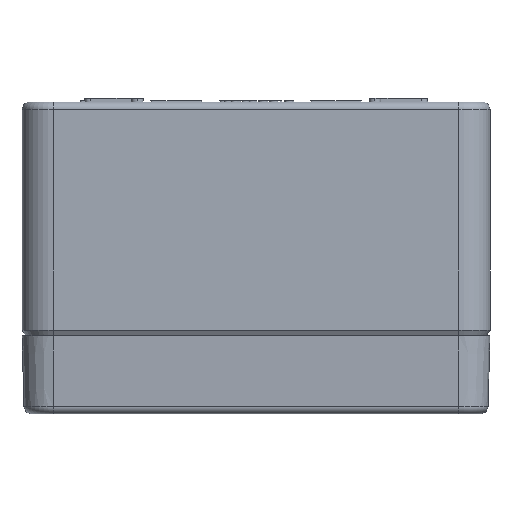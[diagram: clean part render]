
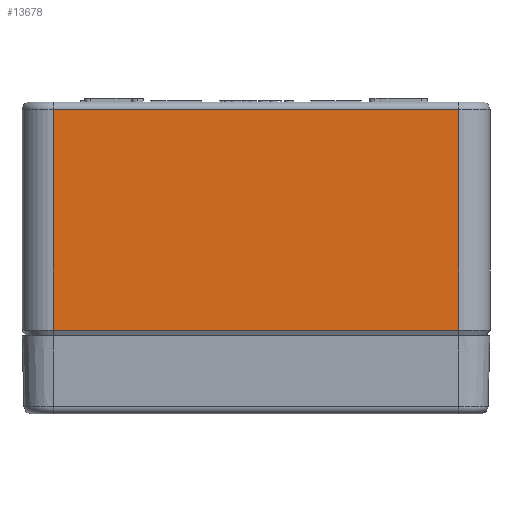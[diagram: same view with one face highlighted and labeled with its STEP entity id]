
A CAD part, left-side view. The second image highlights one B-rep face of the part: STEP entity #13678.
In plain terms, the highlighted planar face has unit normal (-1, 0, 0).
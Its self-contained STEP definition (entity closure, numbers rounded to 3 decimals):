
#1792 = ORIENTED_EDGE ( 'NONE', *, *, #25846, .T. ) ;
#2291 = DIRECTION ( 'NONE',  ( 0., 0., -1. ) ) ;
#2568 = AXIS2_PLACEMENT_3D ( 'NONE', #33051, #11240, #33190 ) ;
#2865 = VECTOR ( 'NONE', #20931, 1000. ) ;
#2973 = EDGE_CURVE ( 'NONE', #3325, #11841, #33135, .T. ) ;
#3325 = VERTEX_POINT ( 'NONE', #14627 ) ;
#3460 = CARTESIAN_POINT ( 'NONE',  ( -61., -52., 62. ) ) ;
#3640 = LINE ( 'NONE', #38833, #15965 ) ;
#3844 = LINE ( 'NONE', #8399, #2865 ) ;
#4392 = DIRECTION ( 'NONE',  ( 0., -1., 0. ) ) ;
#5472 = CARTESIAN_POINT ( 'NONE',  ( -61., 52., 62. ) ) ;
#5845 = EDGE_CURVE ( 'NONE', #21037, #23345, #36768, .T. ) ;
#6215 = EDGE_CURVE ( 'NONE', #21037, #3325, #3844, .T. ) ;
#8399 = CARTESIAN_POINT ( 'NONE',  ( -61., 52., 60. ) ) ;
#8628 = ORIENTED_EDGE ( 'NONE', *, *, #2973, .T. ) ;
#10144 = CARTESIAN_POINT ( 'NONE',  ( -61., -52., 3.5 ) ) ;
#11024 = ORIENTED_EDGE ( 'NONE', *, *, #6215, .T. ) ;
#11240 = DIRECTION ( 'NONE',  ( 1., 0., 0. ) ) ;
#11653 = PLANE ( 'NONE',  #2568 ) ;
#11841 = VERTEX_POINT ( 'NONE', #39536 ) ;
#12566 = DIRECTION ( 'NONE',  ( 0., 0., -1. ) ) ;
#13678 = ADVANCED_FACE ( 'NONE', ( #38320 ), #11653, .F. ) ;
#14627 = CARTESIAN_POINT ( 'NONE',  ( -61., 52., 60. ) ) ;
#15376 = CARTESIAN_POINT ( 'NONE',  ( -61., -52., 60. ) ) ;
#15965 = VECTOR ( 'NONE', #4392, 1000. ) ;
#16972 = VECTOR ( 'NONE', #2291, 1000. ) ;
#20931 = DIRECTION ( 'NONE',  ( 0., 1., 0. ) ) ;
#21037 = VERTEX_POINT ( 'NONE', #15376 ) ;
#23345 = VERTEX_POINT ( 'NONE', #10144 ) ;
#25846 = EDGE_CURVE ( 'NONE', #11841, #23345, #3640, .T. ) ;
#30095 = EDGE_LOOP ( 'NONE', ( #8628, #1792, #40767, #11024 ) ) ;
#33051 = CARTESIAN_POINT ( 'NONE',  ( -61., 52., 62. ) ) ;
#33135 = LINE ( 'NONE', #5472, #16972 ) ;
#33190 = DIRECTION ( 'NONE',  ( 0., 0., -1. ) ) ;
#36768 = LINE ( 'NONE', #3460, #40667 ) ;
#38320 = FACE_OUTER_BOUND ( 'NONE', #30095, .T. ) ;
#38833 = CARTESIAN_POINT ( 'NONE',  ( -61., -52., 3.5 ) ) ;
#39536 = CARTESIAN_POINT ( 'NONE',  ( -61., 52., 3.5 ) ) ;
#40667 = VECTOR ( 'NONE', #12566, 1000. ) ;
#40767 = ORIENTED_EDGE ( 'NONE', *, *, #5845, .F. ) ;
